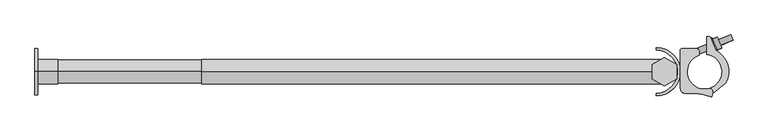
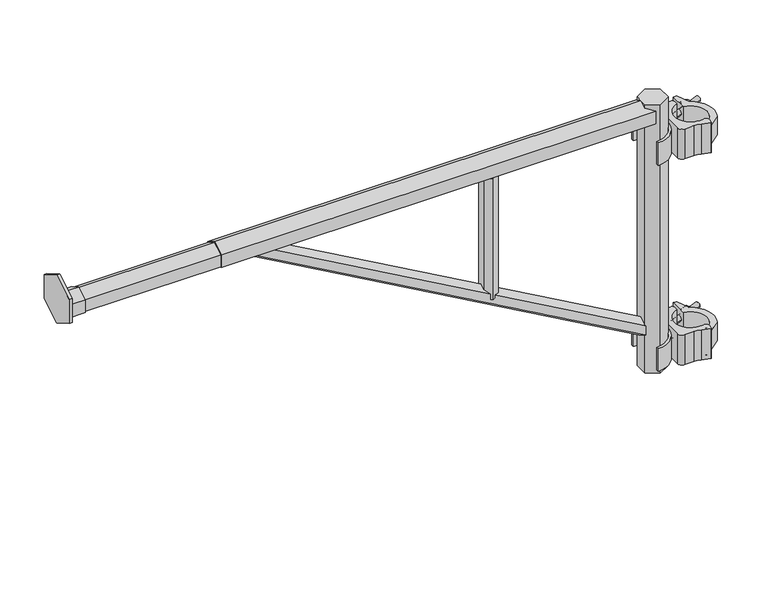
"""IFC4 building model written with IfcOpenShell, lengths in millimetres: proxy geometry, AK_伸縮ブラケット1000_軽 : AK_伸縮ブラケット1000_軽."""

from ifc_helpers import new_model, si_unit, point, frame, frame_2d, origin, place, context, project, spatial, polyline, circle_curve, ellipse_curve, trimmed, segment, composite_curve, outline, extrude, faceted_brep, source, transform, mapped, element, save
from ifc_brep_helpers import plane_surface, cylinder_surface, revolved_surface, advanced_brep


def generic_models_e605bb73(model_context):
    return source(origin(), model_context, "Body", "SolidModel", [
        extrude(outline(polyline([(-308.5836057, 6.8), (-308.5836057, -6.8), (-320.3615512, -13.6), (-332.1394967, -6.8), (-332.1394967, 6.8), (-320.3615512, 13.6), (-308.5836057, 6.8)])), frame((0.0, 0.0, -219.5125587), z_axis=(0.0, 0.0, 1.0), x_axis=(1.0, 0.0, 0.0)), (0.0, 0.0, 1.0), 202.9404046),
        extrude(outline(composite_curve([segment(trimmed(circle_curve(frame_2d((-72.4772304, 0.0)), 32.35), [point((-72.4772304, -32.35))], [point((-72.4772304, 32.35))], True, "CARTESIAN"), True, "CONTINUOUS"), segment(polyline([(-72.4772304, 32.35), (-72.4772304, 36.239624)]), True, "CONTINUOUS"), segment(trimmed(circle_curve(frame_2d((-72.4772304, 0.0)), 36.239624), [point((-72.4772304, 36.239624))], [point((-72.4772304, -36.239624))], False, "CARTESIAN"), True, "CONTINUOUS"), segment(polyline([(-72.4772304, -36.239624), (-72.4772304, -32.35)]), True, "CONTINUOUS")], self_intersect=False)), frame((0.0, 0.0, -412.65), z_axis=(0.0, 0.0, 1.0), x_axis=(1.0, 0.0, 0.0)), (0.0, 0.0, 1.0), 38.0),
        advanced_brep(
        [(9.3330718, -30.709739, -372.65), (4.3330722, -30.709739, -372.65), (6.833072, -30.709739, -371.15), (10.833072, -30.709739, -372.65), (2.833072, -30.709739, -372.65), (10.833072, -30.709739, -373.65), (2.833072, -30.709739, -373.65), (6.833072, -30.709739, -373.65)],
        [
            (0, 1, circle_curve(frame((6.833072, -30.709739, -372.65), z_axis=(0.0, 0.0, 1.0), x_axis=(-1.0, 0.0, 0.0)), 2.4999998)),
            (1, 2, circle_curve(frame((6.833072, -30.709739, -373.983333), z_axis=(0.0, 1.0, 0.0), x_axis=(1.0, 0.0, 0.0)), 2.833333)),
            (2, 0, circle_curve(frame((6.833072, -30.709739, -373.983333), z_axis=(0.0, 1.0, 0.0), x_axis=(-1.0, 0.0, 0.0)), 2.833333)),
            (1, 0, circle_curve(frame((6.833072, -30.709739, -372.65), z_axis=(0.0, 0.0, 1.0), x_axis=(-1.0, 0.0, 0.0)), 2.4999998)),
            (3, 4, circle_curve(frame((6.833072, -30.709739, -372.65), z_axis=(0.0, 0.0, 1.0), x_axis=(-1.0, 0.0, 0.0)), 4.0)),
            (4, 1),
            (0, 3),
            (4, 3, circle_curve(frame((6.833072, -30.709739, -372.65), z_axis=(0.0, 0.0, 1.0), x_axis=(-1.0, 0.0, 0.0)), 4.0)),
            (5, 6, circle_curve(frame((6.833072, -30.709739, -373.65), z_axis=(0.0, 0.0, 1.0), x_axis=(-1.0, 0.0, 0.0)), 4.0)),
            (6, 4),
            (3, 5),
            (6, 5, circle_curve(frame((6.833072, -30.709739, -373.65), z_axis=(0.0, 0.0, 1.0), x_axis=(-1.0, 0.0, 0.0)), 4.0)),
            (7, 6),
            (5, 7),
        ],
        [
            revolved_surface(trimmed(ellipse_curve(frame((6.833072, -30.709739, -373.983333), z_axis=(0.0, -1.0, 0.0), x_axis=(1.0, 0.0, 0.0)), 2.833333, 2.833333), [point((6.833072, -30.709739, -371.15))], [point((4.3330722, -30.709739, -372.65))], True, "CARTESIAN"), (6.833072, -30.709739, -373.65), (0.0, 0.0, -1.0)),
            plane_surface(frame((6.833072, -30.709739, -372.65), z_axis=(0.0, 0.0, 1.0), x_axis=(-1.0, 0.0, 0.0))),
            cylinder_surface(frame((6.833072, -30.709739, -373.65), z_axis=(0.0, 0.0, -1.0), x_axis=(-1.0, 0.0, 0.0)), 4.0),
            plane_surface(frame((6.833072, -30.709739, -373.65), z_axis=(0.0, 0.0, -1.0), x_axis=(-1.0, 0.0, 0.0))),
        ],
        [
            (0, [[1, 2, 3]]),
            (0, [[4, -3, -2]]),
            (1, [[5, 6, -1, 7]]),
            (1, [[8, -7, -4, -6]]),
            (2, [[9, 10, -5, 11]]),
            (2, [[12, -11, -8, -10]]),
            (3, [[13, -9, 14]]),
            (3, [[-14, -12, -13]]),
        ],
    ),
        advanced_brep(
        [(10.833072, -30.709739, -413.65), (2.833072, -30.709739, -413.65), (6.833072, -30.709739, -413.65), (10.833072, -30.709739, -414.65), (2.833072, -30.709739, -414.65), (9.3330718, -30.709739, -414.65), (4.3330722, -30.709739, -414.65), (6.833072, -30.709739, -416.15)],
        [
            (0, 1, circle_curve(frame((6.833072, -30.709739, -413.65), z_axis=(0.0, 0.0, 1.0), x_axis=(-1.0, 0.0, 0.0)), 4.0)),
            (1, 2),
            (2, 0),
            (1, 0, circle_curve(frame((6.833072, -30.709739, -413.65), z_axis=(0.0, 0.0, 1.0), x_axis=(-1.0, 0.0, 0.0)), 4.0)),
            (3, 4, circle_curve(frame((6.833072, -30.709739, -414.65), z_axis=(0.0, 0.0, 1.0), x_axis=(-1.0, 0.0, 0.0)), 4.0)),
            (4, 1),
            (0, 3),
            (4, 3, circle_curve(frame((6.833072, -30.709739, -414.65), z_axis=(0.0, 0.0, 1.0), x_axis=(-1.0, 0.0, 0.0)), 4.0)),
            (5, 6, circle_curve(frame((6.833072, -30.709739, -414.65), z_axis=(0.0, 0.0, 1.0), x_axis=(-1.0, 0.0, 0.0)), 2.4999998)),
            (6, 4),
            (3, 5),
            (6, 5, circle_curve(frame((6.833072, -30.709739, -414.65), z_axis=(0.0, 0.0, 1.0), x_axis=(-1.0, 0.0, 0.0)), 2.4999998)),
            (7, 6, circle_curve(frame((6.833072, -30.709739, -413.316667), z_axis=(0.0, 1.0, 0.0), x_axis=(1.0, 0.0, 0.0)), 2.833333)),
            (5, 7, circle_curve(frame((6.833072, -30.709739, -413.316667), z_axis=(0.0, 1.0, 0.0), x_axis=(-1.0, 0.0, 0.0)), 2.833333)),
        ],
        [
            plane_surface(frame((6.833072, -30.709739, -413.65), z_axis=(0.0, 0.0, 1.0), x_axis=(-1.0, 0.0, 0.0))),
            cylinder_surface(frame((6.833072, -30.709739, -373.65), z_axis=(0.0, 0.0, -1.0), x_axis=(-1.0, 0.0, 0.0)), 4.0),
            plane_surface(frame((6.833072, -30.709739, -414.65), z_axis=(0.0, 0.0, -1.0), x_axis=(-1.0, 0.0, 0.0))),
            revolved_surface(trimmed(ellipse_curve(frame((6.833072, -30.709739, -413.316667), z_axis=(0.0, -1.0, 0.0), x_axis=(1.0, 0.0, 0.0)), 2.833333, 2.833333), [point((4.3330722, -30.709739, -414.65))], [point((6.833072, -30.709739, -416.15))], True, "CARTESIAN"), (6.833072, -30.709739, -373.65), (0.0, 0.0, -1.0)),
        ],
        [
            (0, [[1, 2, 3]]),
            (0, [[4, -3, -2]]),
            (1, [[5, 6, -1, 7]]),
            (1, [[8, -7, -4, -6]]),
            (2, [[9, 10, -5, 11]]),
            (2, [[12, -11, -8, -10]]),
            (3, [[13, -9, 14]]),
            (3, [[-14, -12, -13]]),
        ],
    ),
        advanced_brep(
        [(-13.0914621, 25.408447, -372.4526573), (-13.0914621, 33.408447, -372.4526573), (-13.0914621, 34.457563, -372.4526573), (-13.0914621, 24.359331, -372.4526573), (-13.0914621, 25.408447, -371.4526573), (-13.0914621, 33.408447, -371.4526573), (-13.0914621, 26.9084474, -371.4526573), (-13.0914621, 31.9084466, -371.4526573), (-13.0914621, 29.408447, -370.2520463), (-13.0914621, 26.9084474, -416.3322505), (-13.0914621, 31.9084466, -416.3322505), (-13.0914621, 29.408447, -417.5328615), (-13.0914621, 25.408447, -416.3322505), (-13.0914621, 33.408447, -416.3322505), (-13.0914621, 25.408447, -415.3322505), (-13.0914621, 33.408447, -415.3322505), (-13.0914621, 24.359331, -415.3322505), (-13.0914621, 34.457563, -415.3322505)],
        [
            (0, 1, circle_curve(frame((-13.0914621, 29.408447, -372.4526573), z_axis=(0.0, 0.0, -1.0), x_axis=(0.0, 1.0, 0.0)), 4.0)),
            (1, 2),
            (2, 3, circle_curve(frame((-13.0914621, 29.408447, -372.4526573), z_axis=(0.0, 0.0, 1.0), x_axis=(0.0, 1.0, 0.0)), 5.049116)),
            (3, 0),
            (1, 0, circle_curve(frame((-13.0914621, 29.408447, -372.4526573), z_axis=(0.0, 0.0, -1.0), x_axis=(0.0, 1.0, 0.0)), 4.0)),
            (3, 2, circle_curve(frame((-13.0914621, 29.408447, -372.4526573), z_axis=(0.0, 0.0, 1.0), x_axis=(0.0, 1.0, 0.0)), 5.049116)),
            (4, 5, circle_curve(frame((-13.0914621, 29.408447, -371.4526573), z_axis=(0.0, 0.0, -1.0), x_axis=(0.0, 1.0, 0.0)), 4.0)),
            (5, 1),
            (0, 4),
            (5, 4, circle_curve(frame((-13.0914621, 29.408447, -371.4526573), z_axis=(0.0, 0.0, -1.0), x_axis=(0.0, 1.0, 0.0)), 4.0)),
            (6, 7, circle_curve(frame((-13.0914621, 29.408447, -371.4526573), z_axis=(0.0, 0.0, -1.0), x_axis=(0.0, 1.0, 0.0)), 2.4999996)),
            (7, 5),
            (4, 6),
            (7, 6, circle_curve(frame((-13.0914621, 29.408447, -371.4526573), z_axis=(0.0, 0.0, -1.0), x_axis=(0.0, 1.0, 0.0)), 2.4999996)),
            (8, 7, circle_curve(frame((-13.0914621, 29.408447, -373.4551923), z_axis=(-1.0, 0.0, 0.0), x_axis=(0.0, 1.0, 0.0)), 3.203146)),
            (6, 8, circle_curve(frame((-13.0914621, 29.408447, -373.4551923), z_axis=(-1.0, 0.0, 0.0), x_axis=(0.0, -1.0, 0.0)), 3.203146)),
            (9, 10, circle_curve(frame((-13.0914621, 29.408447, -416.3322505), z_axis=(0.0, 0.0, -1.0), x_axis=(0.0, 1.0, 0.0)), 2.4999996)),
            (10, 11, circle_curve(frame((-13.0914621, 29.408447, -414.3297155), z_axis=(-1.0, 0.0, 0.0), x_axis=(0.0, 1.0, 0.0)), 3.203146)),
            (11, 9, circle_curve(frame((-13.0914621, 29.408447, -414.3297155), z_axis=(-1.0, 0.0, 0.0), x_axis=(0.0, -1.0, 0.0)), 3.203146)),
            (10, 9, circle_curve(frame((-13.0914621, 29.408447, -416.3322505), z_axis=(0.0, 0.0, -1.0), x_axis=(0.0, 1.0, 0.0)), 2.4999996)),
            (12, 13, circle_curve(frame((-13.0914621, 29.408447, -416.3322505), z_axis=(0.0, 0.0, -1.0), x_axis=(0.0, 1.0, 0.0)), 4.0)),
            (13, 10),
            (9, 12),
            (13, 12, circle_curve(frame((-13.0914621, 29.408447, -416.3322505), z_axis=(0.0, 0.0, -1.0), x_axis=(0.0, 1.0, 0.0)), 4.0)),
            (14, 15, circle_curve(frame((-13.0914621, 29.408447, -415.3322505), z_axis=(0.0, 0.0, -1.0), x_axis=(0.0, 1.0, 0.0)), 4.0)),
            (15, 13),
            (12, 14),
            (15, 14, circle_curve(frame((-13.0914621, 29.408447, -415.3322505), z_axis=(0.0, 0.0, -1.0), x_axis=(0.0, 1.0, 0.0)), 4.0)),
            (16, 17, circle_curve(frame((-13.0914621, 29.408447, -415.3322505), z_axis=(0.0, 0.0, -1.0), x_axis=(0.0, 1.0, 0.0)), 5.049116)),
            (17, 15),
            (14, 16),
            (17, 16, circle_curve(frame((-13.0914621, 29.408447, -415.3322505), z_axis=(0.0, 0.0, -1.0), x_axis=(0.0, 1.0, 0.0)), 5.049116)),
            (2, 17),
            (16, 3),
        ],
        [
            plane_surface(frame((-13.0914621, 29.408447, -372.4526573), z_axis=(0.0, 0.0, 1.0), x_axis=(0.0, 1.0, 0.0))),
            cylinder_surface(frame((-13.0914621, 29.408447, -410.850611), z_axis=(0.0, 0.0, 1.0), x_axis=(0.0, 1.0, 0.0)), 4.0),
            plane_surface(frame((-13.0914621, 29.408447, -371.4526573), z_axis=(0.0, 0.0, 1.0), x_axis=(0.0, 1.0, 0.0))),
            revolved_surface(trimmed(ellipse_curve(frame((-13.0914621, 29.408447, -373.4551923), z_axis=(1.0, 0.0, 0.0), x_axis=(0.0, 1.0, 0.0)), 3.203146, 3.203146), [point((-13.0914621, 31.9084466, -371.4526573))], [point((-13.0914621, 29.408447, -370.2520463))], True, "CARTESIAN"), (-13.0914621, 29.408447, -410.850611), (0.0, 0.0, 1.0)),
            revolved_surface(trimmed(ellipse_curve(frame((-13.0914621, 29.408447, -414.3297155), z_axis=(1.0, 0.0, 0.0), x_axis=(0.0, 1.0, 0.0)), 3.203146, 3.203146), [point((-13.0914621, 29.408447, -417.5328615))], [point((-13.0914621, 31.9084466, -416.3322505))], True, "CARTESIAN"), (-13.0914621, 29.408447, -410.850611), (0.0, 0.0, 1.0)),
            plane_surface(frame((-13.0914621, 29.408447, -416.3322505), z_axis=(0.0, 0.0, -1.0), x_axis=(0.0, 1.0, 0.0))),
            plane_surface(frame((-13.0914621, 29.408447, -415.3322505), z_axis=(0.0, 0.0, -1.0), x_axis=(0.0, 1.0, 0.0))),
            cylinder_surface(frame((-13.0914621, 29.408447, -410.850611), z_axis=(0.0, 0.0, 1.0), x_axis=(0.0, 1.0, 0.0)), 5.049116),
        ],
        [
            (0, [[1, 2, 3, 4]]),
            (0, [[5, -4, 6, -2]]),
            (1, [[7, 8, -1, 9]]),
            (1, [[10, -9, -5, -8]]),
            (2, [[11, 12, -7, 13]]),
            (2, [[14, -13, -10, -12]]),
            (3, [[15, -11, 16]]),
            (3, [[-16, -14, -15]]),
            (4, [[17, 18, 19]]),
            (4, [[20, -19, -18]]),
            (5, [[21, 22, -17, 23]]),
            (5, [[24, -23, -20, -22]]),
            (1, [[25, 26, -21, 27]]),
            (1, [[28, -27, -24, -26]]),
            (6, [[29, 30, -25, 31]]),
            (6, [[32, -31, -28, -30]]),
            (7, [[-3, 33, -29, 34]]),
            (7, [[-6, -34, -32, -33]]),
        ],
    ),
        advanced_brep(
        [(-9.2308684, 26.118126, -393.65), (-12.615213, 34.457563, -393.65), (11.5789843, 44.2761518, -393.65), (14.963329, 35.9367148, -393.65), (-10.9230407, 30.2878445, -393.65), (42.3854129, 48.1444675, -393.65), (39.7531449, 54.630696, -393.65), (41.0692789, 51.3875817, -393.65), (41.8348462, 46.8418252, -393.65), (38.450502, 55.181261, -393.65), (24.229369, 39.6970964, -393.65), (20.8450237, 48.036535, -393.65), (25.0754548, 37.6122381, -393.65), (19.9989379, 50.1213932, -393.65), (24.9949365, 35.1513404, -393.65), (18.2262473, 51.8302141, -393.65), (18.5087077, 32.5190735, -393.65), (11.7400193, 49.1979451, -393.65), (19.260785, 30.6658636, -393.65), (10.9879421, 51.051155, -393.65), (17.4075743, 29.913793, -393.65), (9.1347363, 50.2990724, -393.65)],
        [
            (0, 1, circle_curve(frame((-10.9230407, 30.2878445, -393.65), z_axis=(0.9266041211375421, 0.37603829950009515, 0.0), x_axis=(-0.37603829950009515, 0.9266041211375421, 0.0)), 4.4999999)),
            (1, 2),
            (2, 3, circle_curve(frame((13.2711567, 40.1064333, -393.65), z_axis=(-0.9266041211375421, -0.37603829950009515, 0.0), x_axis=(-0.37603829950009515, 0.9266041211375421, 0.0)), 4.4999999)),
            (3, 0),
            (1, 0, circle_curve(frame((-10.9230407, 30.2878445, -393.65), z_axis=(0.9266041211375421, 0.37603829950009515, 0.0), x_axis=(-0.37603829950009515, 0.9266041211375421, 0.0)), 4.4999999)),
            (3, 2, circle_curve(frame((13.2711567, 40.1064333, -393.65), z_axis=(-0.9266041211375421, -0.37603829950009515, 0.0), x_axis=(-0.37603829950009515, 0.9266041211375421, 0.0)), 4.4999999)),
            (4, 1),
            (0, 4),
            (5, 6, circle_curve(frame((41.0692789, 51.3875817, -393.65), z_axis=(0.9266041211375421, 0.37603829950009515, 0.0), x_axis=(-0.37603829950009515, 0.9266041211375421, 0.0)), 3.4999998)),
            (6, 7),
            (7, 5),
            (6, 5, circle_curve(frame((41.0692789, 51.3875817, -393.65), z_axis=(0.9266041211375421, 0.37603829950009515, 0.0), x_axis=(-0.37603829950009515, 0.9266041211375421, 0.0)), 3.4999998)),
            (8, 9, circle_curve(frame((40.1426741, 51.0115431, -393.65), z_axis=(0.9266041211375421, 0.37603829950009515, 0.0), x_axis=(-0.37603829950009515, 0.9266041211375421, 0.0)), 4.4999993)),
            (9, 6),
            (5, 8),
            (9, 8, circle_curve(frame((40.1426741, 51.0115431, -393.65), z_axis=(0.9266041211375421, 0.37603829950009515, 0.0), x_axis=(-0.37603829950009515, 0.9266041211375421, 0.0)), 4.4999993)),
            (10, 11, circle_curve(frame((22.5371964, 43.8668157, -393.65), z_axis=(0.9266041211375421, 0.37603829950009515, 0.0), x_axis=(-0.37603829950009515, 0.9266041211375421, 0.0)), 4.5000008)),
            (11, 9),
            (8, 10),
            (11, 10, circle_curve(frame((22.5371964, 43.8668157, -393.65), z_axis=(0.9266041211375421, 0.37603829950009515, 0.0), x_axis=(-0.37603829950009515, 0.9266041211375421, 0.0)), 4.5000008)),
            (12, 13, circle_curve(frame((22.5371964, 43.8668157, -393.65), z_axis=(0.9266041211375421, 0.37603829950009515, 0.0), x_axis=(-0.37603829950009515, 0.9266041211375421, 0.0)), 6.7499997)),
            (13, 11),
            (10, 12),
            (13, 12, circle_curve(frame((22.5371964, 43.8668157, -393.65), z_axis=(0.9266041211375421, 0.37603829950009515, 0.0), x_axis=(-0.37603829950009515, 0.9266041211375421, 0.0)), 6.7499997)),
            (14, 15, circle_curve(frame((21.6105919, 43.4907772, -393.65), z_axis=(0.9266041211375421, 0.37603829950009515, 0.0), x_axis=(-0.37603829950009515, 0.9266041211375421, 0.0)), 8.9999998)),
            (15, 13, circle_curve(frame((17.190169, 48.981527, -393.65), z_axis=(0.0, 0.0, -1.0), x_axis=(1.0, 0.0, 0.0)), 3.03125)),
            (12, 14, circle_curve(frame((22.2666858, 36.472372, -393.65), z_axis=(0.0, 0.0, -1.0), x_axis=(0.7171903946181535, 0.696877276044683, 0.0)), 3.03125)),
            (15, 14, circle_curve(frame((21.6105919, 43.4907772, -393.65), z_axis=(0.9266041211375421, 0.37603829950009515, 0.0), x_axis=(-0.37603829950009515, 0.9266041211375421, 0.0)), 8.9999998)),
            (16, 17, circle_curve(frame((15.1243635, 40.8585093, -393.65), z_axis=(0.9266041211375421, 0.37603829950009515, 0.0), x_axis=(-0.37603829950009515, 0.9266041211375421, 0.0)), 8.9999986)),
            (17, 15),
            (14, 16),
            (17, 16, circle_curve(frame((15.1243635, 40.8585093, -393.65), z_axis=(0.9266041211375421, 0.37603829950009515, 0.0), x_axis=(-0.37603829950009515, 0.9266041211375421, 0.0)), 8.9999986)),
            (18, 19, circle_curve(frame((15.1243635, 40.8585093, -393.65), z_axis=(0.9266041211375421, 0.37603829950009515, 0.0), x_axis=(-0.37603829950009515, 0.9266041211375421, 0.0)), 11.0000004)),
            (19, 17),
            (16, 18),
            (19, 18, circle_curve(frame((15.1243635, 40.8585093, -393.65), z_axis=(0.9266041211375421, 0.37603829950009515, 0.0), x_axis=(-0.37603829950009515, 0.9266041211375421, 0.0)), 11.0000004)),
            (20, 21, circle_curve(frame((13.2711553, 40.1064327, -393.65), z_axis=(0.9266041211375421, 0.37603829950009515, 0.0), x_axis=(-0.37603829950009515, 0.9266041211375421, 0.0)), 10.9999939)),
            (21, 19),
            (18, 20),
            (21, 20, circle_curve(frame((13.2711553, 40.1064327, -393.65), z_axis=(0.9266041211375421, 0.37603829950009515, 0.0), x_axis=(-0.37603829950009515, 0.9266041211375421, 0.0)), 10.9999939)),
            (2, 21),
            (20, 3),
        ],
        [
            cylinder_surface(frame((-10.9230407, 30.2878445, -393.65), z_axis=(-0.9266041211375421, -0.37603829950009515, 0.0), x_axis=(-0.37603829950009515, 0.9266041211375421, 0.0)), 4.4999999),
            plane_surface(frame((-10.9230407, 30.2878445, -393.65), z_axis=(-0.9266041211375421, -0.37603829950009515, 0.0), x_axis=(-0.37603829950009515, 0.9266041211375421, 0.0))),
            plane_surface(frame((41.0692789, 51.3875817, -393.65), z_axis=(0.9266041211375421, 0.37603829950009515, 0.0), x_axis=(-0.37603829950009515, 0.9266041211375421, 0.0))),
            revolved_surface(polyline([(39.753145, 54.630696, -393.65), (38.450502, 55.181261, -393.65)]), (-10.9230407, 30.2878445, -393.65), (-0.9266041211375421, -0.37603829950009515, 0.0)),
            cylinder_surface(frame((-10.9230407, 30.2878445, -393.65), z_axis=(-0.9266041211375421, -0.37603829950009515, 0.0), x_axis=(-0.37603829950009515, 0.9266041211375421, 0.0)), 4.5000008),
            plane_surface(frame((22.5371964, 43.8668157, -393.65), z_axis=(0.9266041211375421, 0.37603829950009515, 0.0), x_axis=(-0.37603829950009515, 0.9266041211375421, 0.0))),
            revolved_surface(trimmed(ellipse_curve(frame((17.190169, 48.981527, -393.65), z_axis=(0.0, 0.0, 1.0), x_axis=(1.0, 0.0, 0.0)), 3.03125, 3.03125), [point((19.9989377, 50.1213931, -393.65))], [point((18.2262473, 51.8302141, -393.65))], True, "CARTESIAN"), (-10.9230407, 30.2878445, -393.65), (-0.9266041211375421, -0.37603829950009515, 0.0)),
            cylinder_surface(frame((-10.9230407, 30.2878445, -393.65), z_axis=(-0.9266041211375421, -0.37603829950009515, 0.0), x_axis=(-0.37603829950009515, 0.9266041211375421, 0.0)), 8.9999986),
            plane_surface(frame((15.1243635, 40.8585093, -393.65), z_axis=(0.9266041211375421, 0.37603829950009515, 0.0), x_axis=(-0.37603829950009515, 0.9266041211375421, 0.0))),
            cylinder_surface(frame((-10.9230407, 30.2878445, -393.65), z_axis=(-0.9266041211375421, -0.37603829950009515, 0.0), x_axis=(-0.37603829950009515, 0.9266041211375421, 0.0)), 10.9999939),
            plane_surface(frame((13.2711553, 40.1064327, -393.65), z_axis=(-0.9266041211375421, -0.37603829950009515, 0.0), x_axis=(-0.37603829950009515, 0.9266041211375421, 0.0))),
        ],
        [
            (0, [[1, 2, 3, 4]]),
            (0, [[5, -4, 6, -2]]),
            (1, [[7, -1, 8]]),
            (1, [[-8, -5, -7]]),
            (2, [[9, 10, 11]]),
            (2, [[12, -11, -10]]),
            (3, [[13, 14, -9, 15]]),
            (3, [[16, -15, -12, -14]]),
            (4, [[17, 18, -13, 19]]),
            (4, [[20, -19, -16, -18]]),
            (5, [[21, 22, -17, 23]]),
            (5, [[24, -23, -20, -22]]),
            (6, [[25, 26, -21, 27]]),
            (6, [[28, -27, -24, -26]]),
            (7, [[29, 30, -25, 31]]),
            (7, [[32, -31, -28, -30]]),
            (8, [[33, 34, -29, 35]]),
            (8, [[36, -35, -32, -34]]),
            (9, [[37, 38, -33, 39]]),
            (9, [[40, -39, -36, -38]]),
            (10, [[-3, 41, -37, 42]]),
            (10, [[-6, -42, -40, -41]]),
        ],
    ),
        advanced_brep(
        [(2.953176, 26.0330319, -378.15), (5.6904714, -25.5745681, -378.15), (11.994413, -31.7276248, -378.15), (11.6296233, -33.5773448, -378.15), (32.0794389, -16.7734791, -378.15), (16.4637483, 32.2394943, -378.15), (8.5386472, 51.7679076, -378.15), (6.685439, 53.015831, -378.15), (2.953176, 53.015831, -378.15), (2.953176, 26.0330319, -409.15), (2.953176, 53.015831, -409.15), (6.685439, 53.015831, -409.15), (8.5386472, 51.7679076, -409.15), (16.4637483, 32.2394943, -409.15), (32.0794389, -16.7734791, -409.15), (11.6296233, -33.5773448, -409.15), (11.994413, -31.7276248, -409.15), (5.6904713, -25.5745678, -409.15)],
        [
            (0, 1, circle_curve(frame((0.0, 0.0, -378.15), z_axis=(0.0, 0.0, -1.0), x_axis=(1.0, 0.0, 0.0)), 26.2)),
            (1, 2, circle_curve(frame((6.833073, -30.709739, -378.15), z_axis=(0.0, 0.0, -1.0), x_axis=(1.0, 0.0, 0.0)), 5.260753)),
            (2, 3),
            (3, 4),
            (4, 5, circle_curve(frame((0.0, 0.0, -378.15), z_axis=(0.0, 0.0, 1.0), x_axis=(1.0, 0.0, 0.0)), 36.2)),
            (5, 6),
            (6, 7, circle_curve(frame((6.685439, 51.015831, -378.15), z_axis=(0.0, 0.0, 1.0), x_axis=(1.0, 0.0, 0.0)), 2.0)),
            (7, 8),
            (8, 0),
            (9, 10),
            (10, 11),
            (11, 12, circle_curve(frame((6.685439, 51.015831, -409.15), z_axis=(0.0, 0.0, -1.0), x_axis=(1.0, 0.0, 0.0)), 2.0)),
            (12, 13),
            (13, 14, circle_curve(frame((0.0, 0.0, -409.15), z_axis=(0.0, 0.0, -1.0), x_axis=(1.0, 0.0, 0.0)), 36.2)),
            (14, 15),
            (15, 16),
            (16, 17, circle_curve(frame((6.833073, -30.709739, -409.15), z_axis=(0.0, 0.0, 1.0), x_axis=(1.0, 0.0, 0.0)), 5.260753)),
            (17, 9, circle_curve(frame((0.0, 0.0, -409.15), z_axis=(0.0, 0.0, 1.0), x_axis=(1.0, 0.0, 0.0)), 26.2)),
            (0, 9),
            (17, 1),
            (16, 2),
            (15, 3),
            (14, 4),
            (13, 5),
            (12, 6),
            (11, 7),
            (10, 8),
        ],
        [
            plane_surface(frame((26.2, 0.0, -378.15), z_axis=(0.0, 0.0, 1.0), x_axis=(0.0, -1.0, 0.0))),
            plane_surface(frame((26.2, 0.0, -409.15), z_axis=(0.0, 0.0, -1.0), x_axis=(0.0, 1.0, 0.0))),
            revolved_surface(polyline([(26.2, 0.0, -409.15), (26.2, 0.0, -378.15)]), (0.0, 0.0, -409.15), (0.0, 0.0, -1.0)),
            revolved_surface(polyline([(12.093826, -30.709739, -409.15), (12.093826, -30.709739, -378.15)]), (6.833073, -30.709739, -409.15), (0.0, 0.0, -1.0)),
            plane_surface(frame((11.994413, -31.7276248, -378.15), z_axis=(-0.9811028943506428, 0.1934867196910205, 0.0), x_axis=(0.0, 0.0, -1.0))),
            plane_surface(frame((11.6296233, -33.5773448, -378.15), z_axis=(0.6348703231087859, -0.7726187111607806, 0.0), x_axis=(0.0, 0.0, -1.0))),
            cylinder_surface(frame((0.0, 0.0, -409.15), z_axis=(0.0, 0.0, 1.0), x_axis=(1.0, 0.0, 0.0)), 36.2),
            plane_surface(frame((16.4637483, 32.2394943, -378.15), z_axis=(0.9266041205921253, 0.3760383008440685, 0.0), x_axis=(0.0, 0.0, -1.0))),
            cylinder_surface(frame((6.685439, 51.015831, -409.15), z_axis=(0.0, 0.0, 1.0), x_axis=(1.0, 0.0, 0.0)), 2.0),
            plane_surface(frame((6.685439, 53.015831, -378.15), z_axis=(0.0, 1.0, 0.0), x_axis=(0.0, 0.0, -1.0))),
            plane_surface(frame((2.953176, 53.015831, -378.15), z_axis=(-1.0, 0.0, 0.0), x_axis=(0.0, 0.0, -1.0))),
        ],
        [
            (0, [[1, 2, 3, 4, 5, 6, 7, 8, 9]]),
            (1, [[10, 11, 12, 13, 14, 15, 16, 17, 18]]),
            (2, [[-1, 19, -18, 20]]),
            (3, [[-2, -20, -17, 21]]),
            (4, [[-3, -21, -16, 22]]),
            (5, [[-4, -22, -15, 23]]),
            (6, [[-5, -23, -14, 24]]),
            (7, [[-6, -24, -13, 25]]),
            (8, [[-7, -25, -12, 26]]),
            (9, [[-8, -26, -11, 27]]),
            (10, [[-9, -27, -10, -19]]),
        ],
    ),
        advanced_brep(
        [(-36.239624, 32.9575626, -368.65), (-36.239624, -25.297825, -368.65), (-28.739624, -32.797825, -368.65), (-14.161594, -32.797825, -368.65), (-3.0077999, -34.3843784, -368.65), (9.6376321, -38.0561273, -368.65), (10.89758, -37.2892778, -368.65), (11.994413, -31.7276249, -368.65), (5.6904713, -25.5745677, -368.65), (-7.993719, 24.9507602, -368.65), (-7.993719, 30.4575626, -368.65), (-11.993719, 34.4575626, -368.65), (-34.739624, 34.4575626, -368.65), (-36.239624, 32.9575626, -418.65), (-34.739624, 34.4575626, -418.65), (-11.993719, 34.4575626, -418.65), (-7.993719, 30.4575626, -418.65), (-7.993719, 24.9507602, -418.65), (5.6904713, -25.5745677, -418.65), (11.994413, -31.7276249, -418.65), (10.89758, -37.2892778, -418.65), (9.6376321, -38.0561273, -418.65), (-3.0078, -34.384378, -418.65), (-14.161594, -32.797825, -418.65), (-28.739624, -32.797825, -418.65), (-36.239624, -25.297825, -418.65)],
        [
            (0, 1),
            (1, 2, circle_curve(frame((-28.739624, -25.297825, -368.65), z_axis=(0.0, 0.0, 1.0), x_axis=(1.0, 0.0, 0.0)), 7.5)),
            (2, 3),
            (3, 4, circle_curve(frame((-14.161594, -72.797825, -368.65), z_axis=(0.0, 0.0, -1.0), x_axis=(1.0, 0.0, 0.0)), 40.0)),
            (4, 5),
            (5, 6, circle_curve(frame((9.916477, -37.095791, -368.65), z_axis=(0.0, 0.0, 1.0), x_axis=(1.0, 0.0, 0.0)), 1.0000002)),
            (6, 7),
            (7, 8, circle_curve(frame((6.833073, -30.709739, -368.65), z_axis=(0.0, 0.0, 1.0), x_axis=(1.0, 0.0, 0.0)), 5.260753)),
            (8, 9, circle_curve(frame((0.0, 0.0, -368.65), z_axis=(0.0, 0.0, -1.0), x_axis=(1.0, 0.0, 0.0)), 26.1999996)),
            (9, 10),
            (10, 11, circle_curve(frame((-11.993719, 30.4575626, -368.65), z_axis=(0.0, 0.0, 1.0), x_axis=(1.0, 0.0, 0.0)), 4.0)),
            (11, 12),
            (12, 0, circle_curve(frame((-34.739624, 32.9575626, -368.65), z_axis=(0.0, 0.0, 1.0), x_axis=(1.0, 0.0, 0.0)), 1.5)),
            (13, 14, circle_curve(frame((-34.739624, 32.9575626, -418.65), z_axis=(0.0, 0.0, -1.0), x_axis=(1.0, 0.0, 0.0)), 1.5)),
            (14, 15),
            (15, 16, circle_curve(frame((-11.993719, 30.4575626, -418.65), z_axis=(0.0, 0.0, -1.0), x_axis=(1.0, 0.0, 0.0)), 4.0)),
            (16, 17),
            (17, 18, circle_curve(frame((0.0, 0.0, -418.65), z_axis=(0.0, 0.0, 1.0), x_axis=(1.0, 0.0, 0.0)), 26.1999996)),
            (18, 19, circle_curve(frame((6.833073, -30.709739, -418.65), z_axis=(0.0, 0.0, -1.0), x_axis=(1.0, 0.0, 0.0)), 5.260753)),
            (19, 20),
            (20, 21, circle_curve(frame((9.916477, -37.095791, -418.65), z_axis=(0.0, 0.0, -1.0), x_axis=(1.0, 0.0, 0.0)), 1.0000002)),
            (21, 22),
            (22, 23, circle_curve(frame((-14.161594, -72.797825, -418.65), z_axis=(0.0, 0.0, 1.0), x_axis=(1.0, 0.0, 0.0)), 40.0)),
            (23, 24),
            (24, 25, circle_curve(frame((-28.739624, -25.297825, -418.65), z_axis=(0.0, 0.0, -1.0), x_axis=(1.0, 0.0, 0.0)), 7.5)),
            (25, 13),
            (0, 13),
            (25, 1),
            (24, 2),
            (23, 3),
            (22, 4),
            (21, 5),
            (20, 6),
            (19, 7),
            (18, 8),
            (17, 9),
            (16, 10),
            (15, 11),
            (14, 12),
        ],
        [
            plane_surface(frame((-36.239624, -25.297825, -368.65), z_axis=(0.0, 0.0, 1.0), x_axis=(-4.263322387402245e-12, -1.0, 0.0))),
            plane_surface(frame((-36.239624, -25.297825, -418.65), z_axis=(0.0, 0.0, -1.0), x_axis=(4.263322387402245e-12, 1.0, 0.0))),
            plane_surface(frame((-36.239624, 32.9575626, -368.65), z_axis=(-1.0, 4.263322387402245e-12, 0.0), x_axis=(0.0, 0.0, -1.0))),
            cylinder_surface(frame((-28.739624, -25.297825, -418.65), z_axis=(0.0, 0.0, 1.0), x_axis=(1.0, 0.0, 0.0)), 7.5),
            plane_surface(frame((-28.739624, -32.797825, -368.65), z_axis=(-1.703698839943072e-11, -1.0, 0.0), x_axis=(0.0, 0.0, -1.0))),
            revolved_surface(polyline([(25.838406, -72.797825, -418.65), (25.838406, -72.797825, -368.65)]), (-14.161594, -72.797825, -418.65), (0.0, 0.0, -1.0)),
            plane_surface(frame((-3.0078, -34.384378, -368.65), z_axis=(-0.2788448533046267, -0.9603361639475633, 0.0), x_axis=(0.0, 0.0, -1.0))),
            cylinder_surface(frame((9.916477, -37.095791, -418.65), z_axis=(0.0, 0.0, 1.0), x_axis=(1.0, 0.0, 0.0)), 1.0000002),
            plane_surface(frame((10.89758, -37.2892778, -368.65), z_axis=(0.9811028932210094, -0.1934867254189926, 0.0), x_axis=(0.0, 0.0, -1.0))),
            cylinder_surface(frame((6.833073, -30.709739, -418.65), z_axis=(0.0, 0.0, 1.0), x_axis=(1.0, 0.0, 0.0)), 5.260753),
            revolved_surface(polyline([(26.1999996, 0.0, -418.65), (26.1999996, 0.0, -368.65)]), (0.0, 0.0, -418.65), (0.0, 0.0, -1.0)),
            plane_surface(frame((-7.993719, 24.9507602, -368.65), z_axis=(1.0, 0.0, 0.0), x_axis=(0.0, 0.0, -1.0))),
            cylinder_surface(frame((-11.993719, 30.4575626, -418.65), z_axis=(0.0, 0.0, 1.0), x_axis=(1.0, 0.0, 0.0)), 4.0),
            plane_surface(frame((-11.993719, 34.4575626, -368.65), z_axis=(-1.057212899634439e-12, 1.0, 0.0), x_axis=(0.0, 0.0, -1.0))),
            cylinder_surface(frame((-34.739624, 32.9575626, -418.65), z_axis=(0.0, 0.0, 1.0), x_axis=(1.0, 0.0, 0.0)), 1.5),
        ],
        [
            (0, [[1, 2, 3, 4, 5, 6, 7, 8, 9, 10, 11, 12, 13]]),
            (1, [[14, 15, 16, 17, 18, 19, 20, 21, 22, 23, 24, 25, 26]]),
            (2, [[-1, 27, -26, 28]]),
            (3, [[-2, -28, -25, 29]]),
            (4, [[-3, -29, -24, 30]]),
            (5, [[-4, -30, -23, 31]]),
            (6, [[-5, -31, -22, 32]]),
            (7, [[-6, -32, -21, 33]]),
            (8, [[-7, -33, -20, 34]]),
            (9, [[-8, -34, -19, 35]]),
            (10, [[-9, -35, -18, 36]]),
            (11, [[-10, -36, -17, 37]]),
            (12, [[-11, -37, -16, 38]]),
            (13, [[-12, -38, -15, 39]]),
            (14, [[-13, -39, -14, -27]]),
        ],
    ),
        faceted_brep([(-754.3999998, -18.4896424, 10.675), (-754.3999998, 0.0, 21.35), (-754.3999998, 18.4896424, 10.675), (-754.3999998, 18.4896424, -10.675), (-754.3999998, 0.0, -21.35), (-754.3999998, -18.4896424, -10.675), (-41.8603576, 10.675, 21.35), (-60.35, 21.35, 21.35), (-78.8396424, 10.675, 21.35), (-78.8396424, 0.0, 21.35), (-78.8396424, -10.675, 21.35), (-60.35, -21.35, 21.35), (-41.8603576, -10.675, 21.35), (-41.8603576, 10.675, -428.65), (-41.8603576, -10.675, -428.65), (-60.35, -21.35, -428.65), (-78.8396424, -10.675, -428.65), (-78.8396424, 10.675, -428.65), (-60.35, 21.35, -428.65), (-78.8396424, -10.675, 15.1867859), (-65.3042847, -18.4896424, 10.675), (-65.3042847, -18.4896424, -10.675), (-78.8396424, -10.675, -15.1867859), (-78.8396424, 10.675, 15.1867859), (-78.8396424, 0.0, -21.35), (-78.8396424, 10.675, -15.1867859), (-65.3042847, 18.4896424, -10.675), (-65.3042847, 18.4896424, 10.675)], [[[0, 1, 2, 3, 4, 5]], [[6, 7, 8, 9, 10, 11, 12]], [[13, 14, 15, 16, 17, 18]], [[6, 12, 14, 13]], [[12, 11, 15, 14]], [[11, 10, 19, 20, 21, 22, 16, 15]], [[9, 8, 23]], [[10, 9, 19]], [[17, 16, 22, 24, 25]], [[8, 7, 18, 17, 25, 26, 27, 23]], [[7, 6, 13, 18]], [[0, 5, 21, 20]], [[5, 4, 24, 22, 21]], [[4, 3, 26, 25, 24]], [[3, 2, 27, 26]], [[2, 1, 9, 23, 27]], [[1, 0, 20, 19, 9]]]),
        faceted_brep([(-659.0, 17.3205081, 10.0), (-659.0, 0.0, 20.0), (-659.0, -17.3205081, 10.0), (-659.0, -17.3205081, -10.0), (-659.0, 0.0, -20.0), (-659.0, 17.3205081, -10.0), (-970.0, 18.4896424, 10.675), (-970.0, 0.0, 21.35), (-970.0, -18.4896424, 10.675), (-970.0, -18.4896424, -10.675), (-970.0, 0.0, -21.35), (-970.0, 18.4896424, -10.675), (-970.0, 17.3205081, 10.0), (-970.0, 17.3205081, -10.0), (-970.0, 0.0, -20.0), (-970.0, -17.3205081, -10.0), (-970.0, -17.3205081, 10.0), (-970.0, 0.0, 20.0), (-1004.6000002, 34.6410162, 32.85), (-1004.6000002, 34.6410162, -7.15), (-1004.6000002, 0.0, -27.15), (-1004.6000002, -34.6410162, -7.15), (-1004.6000002, -34.6410162, 32.85), (-1004.6000002, 0.0, 52.85), (-1000.0, 34.6410162, 32.85), (-1000.0, 0.0, 52.85), (-1000.0, -34.6410162, 32.85), (-1000.0, -34.6410162, -7.15), (-1000.0, 0.0, -27.15), (-1000.0, 34.6410162, -7.15), (-1000.0, 18.4896424, 10.675), (-1000.0, 18.4896424, -10.675), (-1000.0, 0.0, -21.35), (-1000.0, -18.4896424, -10.675), (-1000.0, -18.4896424, 10.675), (-1000.0, 0.0, 21.35)], [[[0, 1, 2, 3, 4, 5]], [[6, 7, 8, 9, 10, 11], [12, 13, 14, 15, 16, 17]], [[18, 19, 20, 21, 22, 23]], [[24, 25, 26, 27, 28, 29], [30, 31, 32, 33, 34, 35]], [[0, 5, 13, 12]], [[5, 4, 14, 13]], [[4, 3, 15, 14]], [[3, 2, 16, 15]], [[2, 1, 17, 16]], [[1, 0, 12, 17]], [[6, 11, 31, 30]], [[11, 10, 32, 31]], [[10, 9, 33, 32]], [[9, 8, 34, 33]], [[8, 7, 35, 34]], [[7, 6, 30, 35]], [[19, 18, 24, 29]], [[20, 19, 29, 28]], [[21, 20, 28, 27]], [[22, 21, 27, 26]], [[23, 22, 26, 25]], [[18, 23, 25, 24]]]),
        extrude(outline(composite_curve([segment(trimmed(circle_curve(frame_2d((-72.4772304, 0.0)), 32.35), [point((-72.4772304, -32.35))], [point((-72.4772304, 32.35))], True, "CARTESIAN"), True, "CONTINUOUS"), segment(polyline([(-72.4772304, 32.35), (-72.4772304, 36.239624)]), True, "CONTINUOUS"), segment(trimmed(circle_curve(frame_2d((-72.4772304, 0.0)), 36.239624), [point((-72.4772304, 36.239624))], [point((-72.4772304, -36.239624))], False, "CARTESIAN"), True, "CONTINUOUS"), segment(polyline([(-72.4772304, -36.239624), (-72.4772304, -32.35)]), True, "CONTINUOUS")], self_intersect=False)), frame((0.0, 0.0, -67.65), z_axis=(0.0, 0.0, 1.0), x_axis=(1.0, 0.0, 0.0)), (0.0, 0.0, 1.0), 38.0),
        extrude(outline(polyline([(0.0, 0.0), (13.6, 0.0), (20.4, -11.7779455), (13.6, -23.555891), (0.0, -23.555891), (-6.7999999, -11.7779455), (0.0, 0.0)])), frame((-75.0575737, 11.7779455, -366.6049711), z_axis=(-0.8700152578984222, 0.0, 0.49302479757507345), x_axis=(0.49302479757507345, 0.0, 0.8700152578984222)), (0.0, 0.0, 1.0), 717.2425093),
        advanced_brep(
        [(-9.2308684, 26.118126, -48.65), (-12.615213, 34.457563, -48.65), (11.5789843, 44.2761518, -48.65), (14.963329, 35.9367148, -48.65), (-10.9230407, 30.2878445, -48.65), (42.761451, 47.2178639, -48.65), (39.3771068, 55.5572996, -48.65), (41.0692789, 51.3875817, -48.65), (24.229369, 39.6970964, -48.65), (20.8450237, 48.036535, -48.65), (25.921541, 35.5273788, -48.65), (19.1528517, 52.2062526, -48.65), (18.5087077, 32.5190735, -48.65), (11.7400193, 49.1979451, -48.65), (19.260785, 30.6658636, -48.65), (10.9879421, 51.051155, -48.65), (17.4075743, 29.913793, -48.65), (9.1347363, 50.2990724, -48.65)],
        [
            (0, 1, circle_curve(frame((-10.9230407, 30.2878445, -48.65), z_axis=(0.9266041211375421, 0.37603829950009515, 0.0), x_axis=(-0.37603829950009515, 0.9266041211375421, 0.0)), 4.4999999)),
            (1, 2),
            (2, 3, circle_curve(frame((13.2711567, 40.1064333, -48.65), z_axis=(-0.9266041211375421, -0.37603829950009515, 0.0), x_axis=(-0.37603829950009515, 0.9266041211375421, 0.0)), 4.4999999)),
            (3, 0),
            (1, 0, circle_curve(frame((-10.9230407, 30.2878445, -48.65), z_axis=(0.9266041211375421, 0.37603829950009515, 0.0), x_axis=(-0.37603829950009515, 0.9266041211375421, 0.0)), 4.4999999)),
            (3, 2, circle_curve(frame((13.2711567, 40.1064333, -48.65), z_axis=(-0.9266041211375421, -0.37603829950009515, 0.0), x_axis=(-0.37603829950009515, 0.9266041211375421, 0.0)), 4.4999999)),
            (4, 1),
            (0, 4),
            (5, 6, circle_curve(frame((41.0692789, 51.3875817, -48.65), z_axis=(0.9266041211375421, 0.37603829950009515, 0.0), x_axis=(-0.37603829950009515, 0.9266041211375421, 0.0)), 4.4999993)),
            (6, 7),
            (7, 5),
            (6, 5, circle_curve(frame((41.0692789, 51.3875817, -48.65), z_axis=(0.9266041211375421, 0.37603829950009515, 0.0), x_axis=(-0.37603829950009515, 0.9266041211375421, 0.0)), 4.4999993)),
            (8, 9, circle_curve(frame((22.5371964, 43.8668157, -48.65), z_axis=(0.9266041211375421, 0.37603829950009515, 0.0), x_axis=(-0.37603829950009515, 0.9266041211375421, 0.0)), 4.5000008)),
            (9, 6),
            (5, 8),
            (9, 8, circle_curve(frame((22.5371964, 43.8668157, -48.65), z_axis=(0.9266041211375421, 0.37603829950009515, 0.0), x_axis=(-0.37603829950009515, 0.9266041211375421, 0.0)), 4.5000008)),
            (10, 11, circle_curve(frame((22.5371964, 43.8668157, -48.65), z_axis=(0.9266041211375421, 0.37603829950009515, 0.0), x_axis=(-0.37603829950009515, 0.9266041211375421, 0.0)), 8.9999998)),
            (11, 9),
            (8, 10),
            (11, 10, circle_curve(frame((22.5371964, 43.8668157, -48.65), z_axis=(0.9266041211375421, 0.37603829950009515, 0.0), x_axis=(-0.37603829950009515, 0.9266041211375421, 0.0)), 8.9999998)),
            (12, 13, circle_curve(frame((15.1243635, 40.8585093, -48.65), z_axis=(0.9266041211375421, 0.37603829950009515, 0.0), x_axis=(-0.37603829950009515, 0.9266041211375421, 0.0)), 8.9999986)),
            (13, 11),
            (10, 12),
            (13, 12, circle_curve(frame((15.1243635, 40.8585093, -48.65), z_axis=(0.9266041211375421, 0.37603829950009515, 0.0), x_axis=(-0.37603829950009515, 0.9266041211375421, 0.0)), 8.9999986)),
            (14, 15, circle_curve(frame((15.1243635, 40.8585093, -48.65), z_axis=(0.9266041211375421, 0.37603829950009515, 0.0), x_axis=(-0.37603829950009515, 0.9266041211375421, 0.0)), 11.0000004)),
            (15, 13),
            (12, 14),
            (15, 14, circle_curve(frame((15.1243635, 40.8585093, -48.65), z_axis=(0.9266041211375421, 0.37603829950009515, 0.0), x_axis=(-0.37603829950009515, 0.9266041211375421, 0.0)), 11.0000004)),
            (16, 17, circle_curve(frame((13.2711553, 40.1064327, -48.65), z_axis=(0.9266041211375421, 0.37603829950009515, 0.0), x_axis=(-0.37603829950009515, 0.9266041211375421, 0.0)), 10.9999939)),
            (17, 15),
            (14, 16),
            (17, 16, circle_curve(frame((13.2711553, 40.1064327, -48.65), z_axis=(0.9266041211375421, 0.37603829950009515, 0.0), x_axis=(-0.37603829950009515, 0.9266041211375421, 0.0)), 10.9999939)),
            (2, 17),
            (16, 3),
        ],
        [
            cylinder_surface(frame((-10.9230407, 30.2878445, -48.65), z_axis=(-0.9266041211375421, -0.37603829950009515, 0.0), x_axis=(-0.37603829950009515, 0.9266041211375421, 0.0)), 4.4999999),
            plane_surface(frame((-10.9230407, 30.2878445, -48.65), z_axis=(-0.9266041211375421, -0.37603829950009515, 0.0), x_axis=(-0.37603829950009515, 0.9266041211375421, 0.0))),
            plane_surface(frame((41.0692789, 51.3875817, -48.65), z_axis=(0.9266041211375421, 0.37603829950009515, 0.0), x_axis=(-0.37603829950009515, 0.9266041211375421, 0.0))),
            cylinder_surface(frame((-10.9230407, 30.2878445, -48.65), z_axis=(-0.9266041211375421, -0.37603829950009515, 0.0), x_axis=(-0.37603829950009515, 0.9266041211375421, 0.0)), 4.5000008),
            plane_surface(frame((22.5371964, 43.8668157, -48.65), z_axis=(0.9266041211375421, 0.37603829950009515, 0.0), x_axis=(-0.37603829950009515, 0.9266041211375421, 0.0))),
            cylinder_surface(frame((-10.9230407, 30.2878445, -48.65), z_axis=(-0.9266041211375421, -0.37603829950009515, 0.0), x_axis=(-0.37603829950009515, 0.9266041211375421, 0.0)), 8.9999986),
            plane_surface(frame((15.1243635, 40.8585093, -48.65), z_axis=(0.9266041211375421, 0.37603829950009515, 0.0), x_axis=(-0.37603829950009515, 0.9266041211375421, 0.0))),
            cylinder_surface(frame((-10.9230407, 30.2878445, -48.65), z_axis=(-0.9266041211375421, -0.37603829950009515, 0.0), x_axis=(-0.37603829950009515, 0.9266041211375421, 0.0)), 10.9999939),
            plane_surface(frame((13.2711553, 40.1064327, -48.65), z_axis=(-0.9266041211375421, -0.37603829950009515, 0.0), x_axis=(-0.37603829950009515, 0.9266041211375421, 0.0))),
        ],
        [
            (0, [[1, 2, 3, 4]]),
            (0, [[5, -4, 6, -2]]),
            (1, [[7, -1, 8]]),
            (1, [[-8, -5, -7]]),
            (2, [[9, 10, 11]]),
            (2, [[12, -11, -10]]),
            (3, [[13, 14, -9, 15]]),
            (3, [[16, -15, -12, -14]]),
            (4, [[17, 18, -13, 19]]),
            (4, [[20, -19, -16, -18]]),
            (5, [[21, 22, -17, 23]]),
            (5, [[24, -23, -20, -22]]),
            (6, [[25, 26, -21, 27]]),
            (6, [[28, -27, -24, -26]]),
            (7, [[29, 30, -25, 31]]),
            (7, [[32, -31, -28, -30]]),
            (8, [[-3, 33, -29, 34]]),
            (8, [[-6, -34, -32, -33]]),
        ],
    ),
        advanced_brep(
        [(2.953176, 26.0330319, -33.15), (5.6904714, -25.5745681, -33.15), (11.994413, -31.7276248, -33.15), (11.6296233, -33.5773448, -33.15), (32.0794389, -16.7734791, -33.15), (16.4637483, 32.2394943, -33.15), (8.5386472, 51.7679076, -33.15), (6.685439, 53.015831, -33.15), (2.953176, 53.015831, -33.15), (2.953176, 26.0330319, -64.15), (2.953176, 53.015831, -64.15), (6.685439, 53.015831, -64.15), (8.5386472, 51.7679076, -64.15), (16.4637483, 32.2394943, -64.15), (32.0794389, -16.7734791, -64.15), (11.6296233, -33.5773448, -64.15), (11.994413, -31.7276248, -64.15), (5.6904713, -25.5745678, -64.15)],
        [
            (0, 1, circle_curve(frame((0.0, 0.0, -33.15), z_axis=(0.0, 0.0, -1.0), x_axis=(1.0, 0.0, 0.0)), 26.2)),
            (1, 2, circle_curve(frame((6.833073, -30.709739, -33.15), z_axis=(0.0, 0.0, -1.0), x_axis=(1.0, 0.0, 0.0)), 5.260753)),
            (2, 3),
            (3, 4),
            (4, 5, circle_curve(frame((0.0, 0.0, -33.15), z_axis=(0.0, 0.0, 1.0), x_axis=(1.0, 0.0, 0.0)), 36.2)),
            (5, 6),
            (6, 7, circle_curve(frame((6.685439, 51.015831, -33.15), z_axis=(0.0, 0.0, 1.0), x_axis=(1.0, 0.0, 0.0)), 2.0)),
            (7, 8),
            (8, 0),
            (9, 10),
            (10, 11),
            (11, 12, circle_curve(frame((6.685439, 51.015831, -64.15), z_axis=(0.0, 0.0, -1.0), x_axis=(1.0, 0.0, 0.0)), 2.0)),
            (12, 13),
            (13, 14, circle_curve(frame((0.0, 0.0, -64.15), z_axis=(0.0, 0.0, -1.0), x_axis=(1.0, 0.0, 0.0)), 36.2)),
            (14, 15),
            (15, 16),
            (16, 17, circle_curve(frame((6.833073, -30.709739, -64.15), z_axis=(0.0, 0.0, 1.0), x_axis=(1.0, 0.0, 0.0)), 5.260753)),
            (17, 9, circle_curve(frame((0.0, 0.0, -64.15), z_axis=(0.0, 0.0, 1.0), x_axis=(1.0, 0.0, 0.0)), 26.2)),
            (0, 9),
            (17, 1),
            (16, 2),
            (15, 3),
            (14, 4),
            (13, 5),
            (12, 6),
            (11, 7),
            (10, 8),
        ],
        [
            plane_surface(frame((26.2, 0.0, -33.15), z_axis=(0.0, 0.0, 1.0), x_axis=(0.0, -1.0, 0.0))),
            plane_surface(frame((26.2, 0.0, -64.15), z_axis=(0.0, 0.0, -1.0), x_axis=(0.0, 1.0, 0.0))),
            revolved_surface(polyline([(26.2, 0.0, -64.15), (26.2, 0.0, -33.15)]), (0.0, 0.0, -64.15), (0.0, 0.0, -1.0)),
            revolved_surface(polyline([(12.093826, -30.709739, -64.15), (12.093826, -30.709739, -33.15)]), (6.833073, -30.709739, -64.15), (0.0, 0.0, -1.0)),
            plane_surface(frame((11.994413, -31.7276248, -33.15), z_axis=(-0.9811028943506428, 0.19348671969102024, 0.0), x_axis=(0.0, 0.0, -1.0))),
            plane_surface(frame((11.6296233, -33.5773448, -33.15), z_axis=(0.6348703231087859, -0.7726187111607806, 0.0), x_axis=(0.0, 0.0, -1.0))),
            cylinder_surface(frame((0.0, 0.0, -64.15), z_axis=(0.0, 0.0, 1.0), x_axis=(1.0, 0.0, 0.0)), 36.2),
            plane_surface(frame((16.4637483, 32.2394943, -33.15), z_axis=(0.9266041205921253, 0.3760383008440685, 0.0), x_axis=(0.0, 0.0, -1.0))),
            cylinder_surface(frame((6.685439, 51.015831, -64.15), z_axis=(0.0, 0.0, 1.0), x_axis=(1.0, 0.0, 0.0)), 2.0),
            plane_surface(frame((6.685439, 53.015831, -33.15), z_axis=(0.0, 1.0, 0.0), x_axis=(0.0, 0.0, -1.0))),
            plane_surface(frame((2.953176, 53.015831, -33.15), z_axis=(-1.0, 0.0, 0.0), x_axis=(0.0, 0.0, -1.0))),
        ],
        [
            (0, [[1, 2, 3, 4, 5, 6, 7, 8, 9]]),
            (1, [[10, 11, 12, 13, 14, 15, 16, 17, 18]]),
            (2, [[-1, 19, -18, 20]]),
            (3, [[-2, -20, -17, 21]]),
            (4, [[-3, -21, -16, 22]]),
            (5, [[-4, -22, -15, 23]]),
            (6, [[-5, -23, -14, 24]]),
            (7, [[-6, -24, -13, 25]]),
            (8, [[-7, -25, -12, 26]]),
            (9, [[-8, -26, -11, 27]]),
            (10, [[-9, -27, -10, -19]]),
        ],
    ),
        advanced_brep(
        [(-36.239624, 32.9575626, -23.65), (-36.239624, -25.297825, -23.65), (-28.739624, -32.797825, -23.65), (-14.161594, -32.797825, -23.65), (-3.0077999, -34.3843784, -23.65), (9.6376321, -38.0561273, -23.65), (10.89758, -37.2892778, -23.65), (11.994413, -31.7276249, -23.65), (5.6904713, -25.5745677, -23.65), (-7.993719, 24.9507602, -23.65), (-7.993719, 30.4575626, -23.65), (-11.993719, 34.4575626, -23.65), (-34.739624, 34.4575626, -23.65), (-36.239624, 32.9575626, -73.65), (-34.739624, 34.4575626, -73.65), (-11.993719, 34.4575626, -73.65), (-7.993719, 30.4575626, -73.65), (-7.993719, 24.9507602, -73.65), (5.6904713, -25.5745677, -73.65), (11.994413, -31.7276249, -73.65), (10.89758, -37.2892778, -73.65), (9.6376321, -38.0561273, -73.65), (-3.0078, -34.384378, -73.65), (-14.161594, -32.797825, -73.65), (-28.739624, -32.797825, -73.65), (-36.239624, -25.297825, -73.65)],
        [
            (0, 1),
            (1, 2, circle_curve(frame((-28.739624, -25.297825, -23.65), z_axis=(0.0, 0.0, 1.0), x_axis=(1.0, 0.0, 0.0)), 7.5)),
            (2, 3),
            (3, 4, circle_curve(frame((-14.161594, -72.797825, -23.65), z_axis=(0.0, 0.0, -1.0), x_axis=(1.0, 0.0, 0.0)), 40.0)),
            (4, 5),
            (5, 6, circle_curve(frame((9.916477, -37.095791, -23.65), z_axis=(0.0, 0.0, 1.0), x_axis=(1.0, 0.0, 0.0)), 1.0000002)),
            (6, 7),
            (7, 8, circle_curve(frame((6.833073, -30.709739, -23.65), z_axis=(0.0, 0.0, 1.0), x_axis=(1.0, 0.0, 0.0)), 5.260753)),
            (8, 9, circle_curve(frame((0.0, 0.0, -23.65), z_axis=(0.0, 0.0, -1.0), x_axis=(1.0, 0.0, 0.0)), 26.1999996)),
            (9, 10),
            (10, 11, circle_curve(frame((-11.993719, 30.4575626, -23.65), z_axis=(0.0, 0.0, 1.0), x_axis=(1.0, 0.0, 0.0)), 4.0)),
            (11, 12),
            (12, 0, circle_curve(frame((-34.739624, 32.9575626, -23.65), z_axis=(0.0, 0.0, 1.0), x_axis=(1.0, 0.0, 0.0)), 1.5)),
            (13, 14, circle_curve(frame((-34.739624, 32.9575626, -73.65), z_axis=(0.0, 0.0, -1.0), x_axis=(1.0, 0.0, 0.0)), 1.5)),
            (14, 15),
            (15, 16, circle_curve(frame((-11.993719, 30.4575626, -73.65), z_axis=(0.0, 0.0, -1.0), x_axis=(1.0, 0.0, 0.0)), 4.0)),
            (16, 17),
            (17, 18, circle_curve(frame((0.0, 0.0, -73.65), z_axis=(0.0, 0.0, 1.0), x_axis=(1.0, 0.0, 0.0)), 26.1999996)),
            (18, 19, circle_curve(frame((6.833073, -30.709739, -73.65), z_axis=(0.0, 0.0, -1.0), x_axis=(1.0, 0.0, 0.0)), 5.260753)),
            (19, 20),
            (20, 21, circle_curve(frame((9.916477, -37.095791, -73.65), z_axis=(0.0, 0.0, -1.0), x_axis=(1.0, 0.0, 0.0)), 1.0000002)),
            (21, 22),
            (22, 23, circle_curve(frame((-14.161594, -72.797825, -73.65), z_axis=(0.0, 0.0, 1.0), x_axis=(1.0, 0.0, 0.0)), 40.0)),
            (23, 24),
            (24, 25, circle_curve(frame((-28.739624, -25.297825, -73.65), z_axis=(0.0, 0.0, -1.0), x_axis=(1.0, 0.0, 0.0)), 7.5)),
            (25, 13),
            (0, 13),
            (25, 1),
            (24, 2),
            (23, 3),
            (22, 4),
            (21, 5),
            (20, 6),
            (19, 7),
            (18, 8),
            (17, 9),
            (16, 10),
            (15, 11),
            (14, 12),
        ],
        [
            plane_surface(frame((-36.239624, -25.297825, -23.65), z_axis=(0.0, 0.0, 1.0), x_axis=(-4.263322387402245e-12, -1.0, 0.0))),
            plane_surface(frame((-36.239624, -25.297825, -73.65), z_axis=(0.0, 0.0, -1.0), x_axis=(4.263322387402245e-12, 1.0, 0.0))),
            plane_surface(frame((-36.239624, 32.9575626, -23.65), z_axis=(-1.0, 4.263322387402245e-12, 0.0), x_axis=(0.0, 0.0, -1.0))),
            cylinder_surface(frame((-28.739624, -25.297825, -73.65), z_axis=(0.0, 0.0, 1.0), x_axis=(1.0, 0.0, 0.0)), 7.5),
            plane_surface(frame((-28.739624, -32.797825, -23.65), z_axis=(-1.703698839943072e-11, -1.0, 0.0), x_axis=(0.0, 0.0, -1.0))),
            revolved_surface(polyline([(25.838406, -72.797825, -73.65), (25.838406, -72.797825, -23.65)]), (-14.161594, -72.797825, -73.65), (0.0, 0.0, -1.0)),
            plane_surface(frame((-3.0078, -34.384378, -23.65), z_axis=(-0.2788448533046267, -0.9603361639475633, 0.0), x_axis=(0.0, 0.0, -1.0))),
            cylinder_surface(frame((9.916477, -37.095791, -73.65), z_axis=(0.0, 0.0, 1.0), x_axis=(1.0, 0.0, 0.0)), 1.0000002),
            plane_surface(frame((10.89758, -37.2892778, -23.65), z_axis=(0.9811028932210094, -0.19348672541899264, 0.0), x_axis=(0.0, 0.0, -1.0))),
            cylinder_surface(frame((6.833073, -30.709739, -73.65), z_axis=(0.0, 0.0, 1.0), x_axis=(1.0, 0.0, 0.0)), 5.260753),
            revolved_surface(polyline([(26.1999996, 0.0, -73.65), (26.1999996, 0.0, -23.65)]), (0.0, 0.0, -73.65), (0.0, 0.0, -1.0)),
            plane_surface(frame((-7.993719, 24.9507602, -23.65), z_axis=(1.0, 0.0, 0.0), x_axis=(0.0, 0.0, -1.0))),
            cylinder_surface(frame((-11.993719, 30.4575626, -73.65), z_axis=(0.0, 0.0, 1.0), x_axis=(1.0, 0.0, 0.0)), 4.0),
            plane_surface(frame((-11.993719, 34.4575626, -23.65), z_axis=(-1.057212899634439e-12, 1.0, 0.0), x_axis=(0.0, 0.0, -1.0))),
            cylinder_surface(frame((-34.739624, 32.9575626, -73.65), z_axis=(0.0, 0.0, 1.0), x_axis=(1.0, 0.0, 0.0)), 1.5),
        ],
        [
            (0, [[1, 2, 3, 4, 5, 6, 7, 8, 9, 10, 11, 12, 13]]),
            (1, [[14, 15, 16, 17, 18, 19, 20, 21, 22, 23, 24, 25, 26]]),
            (2, [[-1, 27, -26, 28]]),
            (3, [[-2, -28, -25, 29]]),
            (4, [[-3, -29, -24, 30]]),
            (5, [[-4, -30, -23, 31]]),
            (6, [[-5, -31, -22, 32]]),
            (7, [[-6, -32, -21, 33]]),
            (8, [[-7, -33, -20, 34]]),
            (9, [[-8, -34, -19, 35]]),
            (10, [[-9, -35, -18, 36]]),
            (11, [[-10, -36, -17, 37]]),
            (12, [[-11, -37, -16, 38]]),
            (13, [[-12, -38, -15, 39]]),
            (14, [[-13, -39, -14, -27]]),
        ],
    ),
    ])


if __name__ == "__main__":
    model = new_model("IFC4")
    model_context = context("Model", 3, world=origin())
    ifc_project = project(units=[si_unit("LENGTHUNIT", "METRE", prefix="MILLI")], contexts=[model_context])
    site = spatial("IfcSite", under=ifc_project)
    building = spatial("IfcBuilding", under=site)
    placement = place(None, origin())
    generic_models_shape = generic_models_e605bb73(model_context)
    element("IfcBuildingElementProxy", 1, Name="AK_伸縮ブラケット1000_軽 : AK_伸縮ブラケット1000_軽", ObjectType="AK_伸縮ブラケット1000_軽 : AK_伸縮ブラケット1000_軽", at=placement, inside=building, context=model_context, shape_type="MappedRepresentation", body=[
        mapped(generic_models_shape, transform((0.0, 0.0, 0.0), x_axis=(1.0, 0.0, 0.0), y_axis=(0.0, 1.0, 0.0), z_axis=(0.0, 0.0, 1.0))),
    ])
    save(model, "model.ifc")
